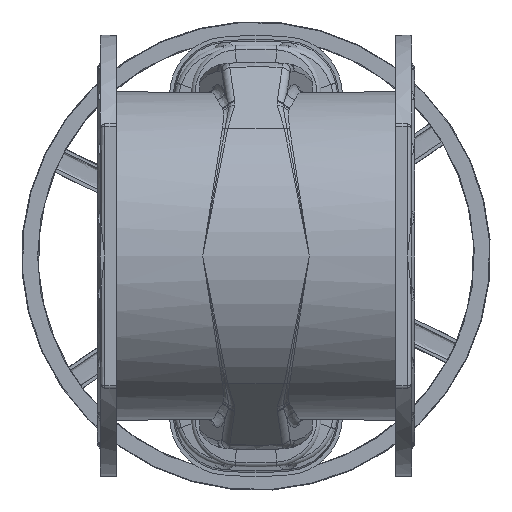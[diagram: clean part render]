
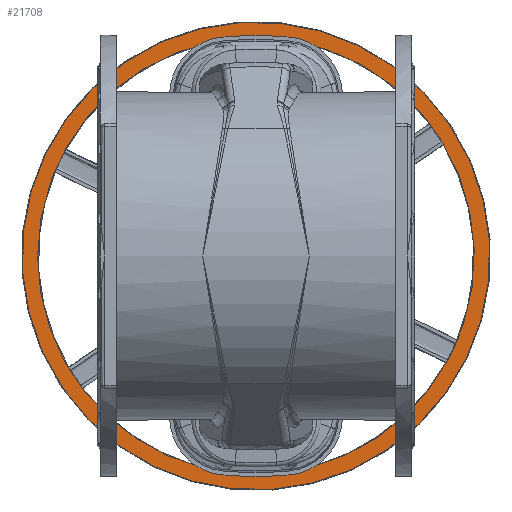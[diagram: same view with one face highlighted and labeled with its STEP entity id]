
A CAD part, front view. The second image highlights one B-rep face of the part: STEP entity #21708.
In plain terms, the highlighted planar face has unit normal (0, -1, 0).
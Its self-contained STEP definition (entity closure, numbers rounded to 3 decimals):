
#2210 = FACE_OUTER_BOUND ( 'NONE', #8938, .T. ) ;
#2214 = FACE_BOUND ( 'NONE', #8936, .T. ) ;
#8936 = EDGE_LOOP ( 'NONE', ( #32404 ) ) ;
#8938 = EDGE_LOOP ( 'NONE', ( #32403 ) ) ;
#11810 = AXIS2_PLACEMENT_3D ( 'NONE', #13220, #13221, #13222 ) ;
#11811 = AXIS2_PLACEMENT_3D ( 'NONE', #13223, #13224, #13225 ) ;
#13220 = CARTESIAN_POINT ( 'NONE',  ( 0., 1236., 0. ) ) ;
#13221 = DIRECTION ( 'NONE',  ( 0., -1., 0. ) ) ;
#13222 = DIRECTION ( 'NONE',  ( -1., 0., 0. ) ) ;
#13223 = CARTESIAN_POINT ( 'NONE',  ( 0., 1236., 0. ) ) ;
#13224 = DIRECTION ( 'NONE',  ( 0., 1., 0. ) ) ;
#13225 = DIRECTION ( 'NONE',  ( -0.899, 0., 0.438 ) ) ;
#19783 = CARTESIAN_POINT ( 'NONE',  ( 265.297, 1236., -129.27 ) ) ;
#19785 = PLANE ( 'NONE',  #31519 ) ;
#19787 = DIRECTION ( 'NONE',  ( 0., 1., 0. ) ) ;
#19789 = DIRECTION ( 'NONE',  ( -0.899, 0., 0.438 ) ) ;
#21708 = ADVANCED_FACE ( 'NONE', ( #2210, #2214 ), #19785, .F. ) ;
#25108 = VERTEX_POINT ( 'NONE', #25937 ) ;
#25109 = VERTEX_POINT ( 'NONE', #25938 ) ;
#25937 = CARTESIAN_POINT ( 'NONE',  ( -279.221, 1236., 0. ) ) ;
#25938 = CARTESIAN_POINT ( 'NONE',  ( -268.893, 1236., 131.022 ) ) ;
#31519 = AXIS2_PLACEMENT_3D ( 'NONE', #19783, #19787, #19789 ) ;
#32403 = ORIENTED_EDGE ( 'NONE', *, *, #35542, .F. ) ;
#32404 = ORIENTED_EDGE ( 'NONE', *, *, #35541, .F. ) ;
#35541 = EDGE_CURVE ( 'NONE', #25108, #25108, #37393, .T. ) ;
#35542 = EDGE_CURVE ( 'NONE', #25109, #25109, #37398, .T. ) ;
#37393 = CIRCLE ( 'NONE', #11810, 279.221 ) ;
#37398 = CIRCLE ( 'NONE', #11811, 299.116 ) ;
